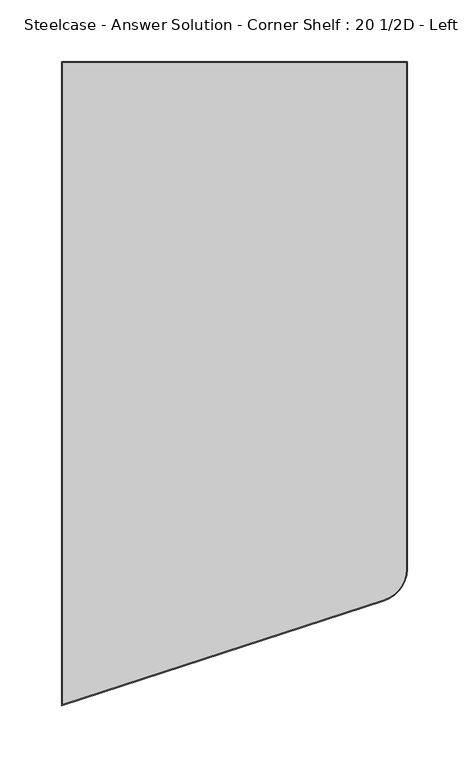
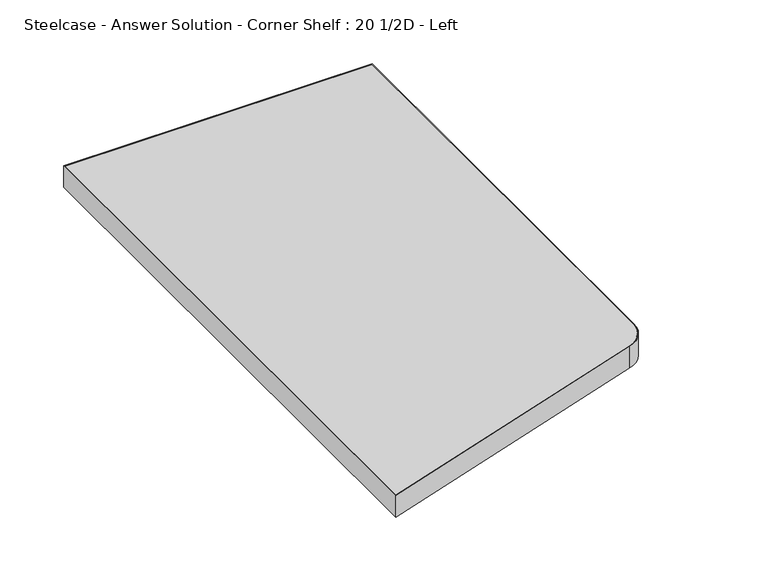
"""IFC4 building model written with IfcOpenShell, lengths in millimetres: furniture geometry, Steelcase - Answer Solution - Corner Shelf : 20 1/2D - Left."""

from ifc_helpers import new_model, si_unit, point, frame, frame_2d, origin, place, context, project, spatial, polyline, circle_curve, trimmed, segment, composite_curve, outline, extrude, source, transform, mapped, element, save


def steelcase_answer_solution_corner_shelf_20_1_2d_left_ab737e2f(model_context):
    return source(origin(), model_context, "Body", "SweptSolid", [
        extrude(outline(composite_curve([segment(polyline([(443.738, 19.812), (443.738, -389.8540688)]), True, "CONTINUOUS"), segment(trimmed(circle_curve(frame_2d((417.83, -389.8540688)), 25.908), [point((443.738, -389.8540688))], [point((425.8345824, -414.4945056))], False, "CARTESIAN"), True, "CONTINUOUS"), segment(polyline([(425.8345824, -414.4945056), (165.862, -499.1130655), (165.862, 19.812), (443.738, 19.812)]), True, "CONTINUOUS")], self_intersect=False)), frame((0.0, 0.0, 723.9), z_axis=(0.0, 0.0, 1.0), x_axis=(1.0, 0.0, 0.0)), (0.0, 0.0, 1.0), 20.574),
        extrude(outline(composite_curve([segment(polyline([(426.0834994, -415.2607447), (165.0563438, -500.2225581), (165.0563438, 20.6176563), (444.5436563, 20.6176563), (444.5436563, -389.8540688)]), True, "CONTINUOUS"), segment(trimmed(circle_curve(frame_2d((417.83, -389.8540688)), 26.7136563), [point((444.5436563, -389.8540688))], [point((426.0834994, -415.2607447))], False, "CARTESIAN"), True, "CONTINUOUS")], self_intersect=False), holes=[composite_curve([segment(polyline([(443.738, 19.812), (165.862, 19.812), (165.862, -499.1130655), (425.8345824, -414.4945056)]), True, "CONTINUOUS"), segment(trimmed(circle_curve(frame_2d((417.83, -389.8540688)), 25.908), [point((425.8345824, -414.4945056))], [point((443.738, -389.8540688))], True, "CARTESIAN"), True, "CONTINUOUS"), segment(polyline([(443.738, -389.8540688), (443.738, 19.812)]), True, "CONTINUOUS")], self_intersect=False)]), frame((0.0, 0.0, 723.9), z_axis=(0.0, 0.0, 1.0), x_axis=(1.0, 0.0, 0.0)), (0.0, 0.0, 1.0), 20.574),
    ])


if __name__ == "__main__":
    model = new_model("IFC4")
    model_context = context("Model", 3, world=origin())
    ifc_project = project(units=[si_unit("LENGTHUNIT", "METRE", prefix="MILLI")], contexts=[model_context])
    site = spatial("IfcSite", under=ifc_project)
    building = spatial("IfcBuilding", under=site)
    placement = place(None, origin())
    steelcase_answer_solution_corner_shelf_20_1_2d_left_shape = steelcase_answer_solution_corner_shelf_20_1_2d_left_ab737e2f(model_context)
    element("IfcFurniture", 1, ObjectType="Steelcase - Answer Solution - Corner Shelf : 20 1/2D - Left", at=placement, inside=building, context=model_context, shape_type="MappedRepresentation", body=[
        mapped(steelcase_answer_solution_corner_shelf_20_1_2d_left_shape, transform((0.0, 0.0, 0.0), x_axis=(1.0, 0.0, 0.0), y_axis=(0.0, 1.0, 0.0), z_axis=(0.0, 0.0, 1.0))),
    ])
    save(model, "model.ifc")
